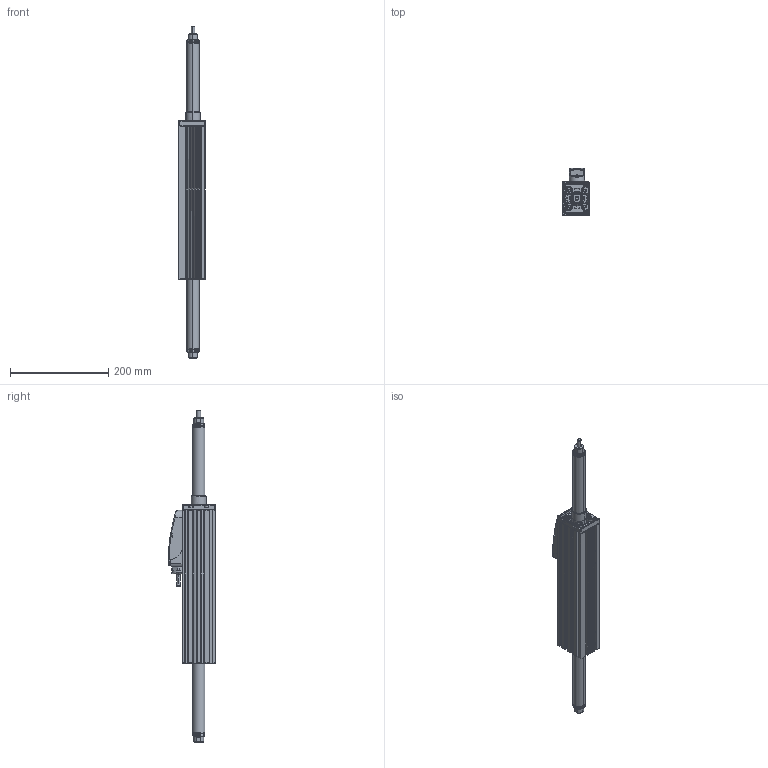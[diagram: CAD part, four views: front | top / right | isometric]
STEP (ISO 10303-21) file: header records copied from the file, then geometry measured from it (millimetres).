
FILE_DESCRIPTION (( 'STEP AP203' ), '1' );
FILE_NAME ('STA2510-283.STEP', '2011-10-13T14:23:53', ( 'showsden' ), ( '' ), 'SwSTEP 2.0', 'SolidWorks 2011', '' );
FILE_SCHEMA (( 'CONFIG_CONTROL_DESIGN' ));
Length unit declared in the file: millimetre
Products named in the file (14): STA2510-283; TRA25 Thrust Rod - Solid_TRA2510 (283); Screw, Cap Head, M4_Screw, Cap Head, M4 x 16; STA25 Bearing End Support - Solid_MP02261; STA25 MOTOR HOUSING (REV-B)_STA2510; ST25 POD ASSEMBLY (DLS)_ST25 POD ASSEMBLY (SOLID); MP02254-D ST25 Pod Base Gasket_MP02254; ST25 CABLE ASSEMBLY (REV2)_MA02197 (FLEXING); POWER CABLE_FLEXING (POWER); SIGNAL CABLE_FLEXING (SIGNAL); PG16 Gland Nut (REV2)_PG16 (REV 2); Screw, Button Head, M3_Screw, Button Head, M3 x 10; Screw, Cap Head, M2.5_Screw, Cap Head, M2.5 x 6; ST25 POD (DLS)_ST25 POD (SOLID)
Assembly tree (20 placements, depth 4):
  STA2510-283
    TRA25 Thrust Rod - Solid_TRA2510 (283)
    Screw, Cap Head, M4_Screw, Cap Head, M4 x 16  x4
    ST25 POD ASSEMBLY (DLS)_ST25 POD ASSEMBLY (SOLID)
      Screw, Button Head, M3_Screw, Button Head, M3 x 10  x4
      Screw, Cap Head, M2.5_Screw, Cap Head, M2.5 x 6  x2
      ST25 POD (DLS)_ST25 POD (SOLID)
      MP02254-D ST25 Pod Base Gasket_MP02254
      ST25 CABLE ASSEMBLY (REV2)_MA02197 (FLEXING)
        POWER CABLE_FLEXING (POWER)
        PG16 Gland Nut (REV2)_PG16 (REV 2)
        SIGNAL CABLE_FLEXING (SIGNAL)
    STA25 MOTOR HOUSING (REV-B)_STA2510
    STA25 Bearing End Support - Solid_MP02261
Bounding box: 54 x 95.5 x 676 mm (x, y, z)
Volume: 1219117 mm3; surface area: 286943.3 mm2
Topology: 18 solids, 18 shells, 1636 faces, 4226 edges, 2687 vertices
Faces by surface type: plane 567, cylinder 516, bspline 365, cone 116, torus 56, sphere 16
Entity records: 75343 total; most frequent: CARTESIAN_POINT 39247, ORIENTED_EDGE 7888, DIRECTION 6221, EDGE_CURVE 3944, VERTEX_POINT 2531, AXIS2_PLACEMENT_3D 2326, EDGE_LOOP 1659, VECTOR 1569
